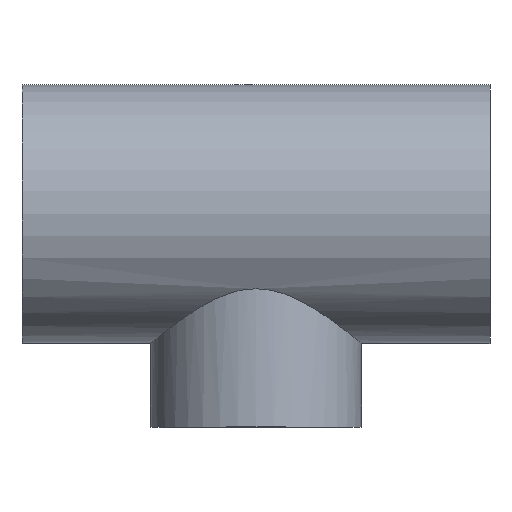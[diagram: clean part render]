
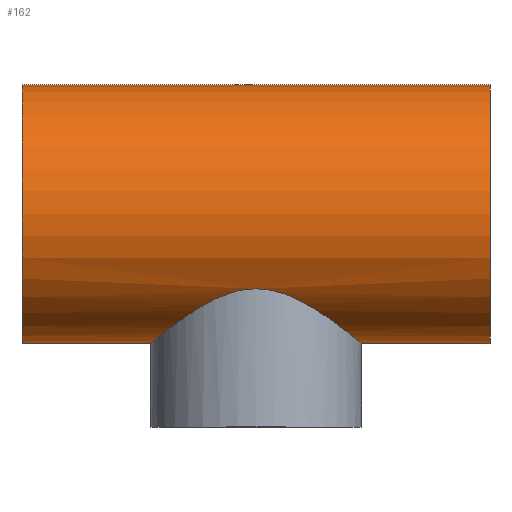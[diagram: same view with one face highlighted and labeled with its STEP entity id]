
A CAD part, top view. The second image highlights one B-rep face of the part: STEP entity #162.
In plain terms, the highlighted cylindrical face has radius 65 mm (diameter 130 mm), a full revolution.
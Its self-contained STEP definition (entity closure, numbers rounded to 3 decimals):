
#16=B_SPLINE_CURVE_WITH_KNOTS('',3,(#344,#345,#346,#347,#348,#349,#350,
#351,#352,#353,#354,#355,#356,#357,#358,#359,#360,#361,#362,#363,#364,#365,
#366,#367,#368,#369,#370,#371,#372,#373,#374,#375,#376,#377,#378,#379,#380,
#381,#382,#383,#384,#385,#386,#387,#388,#389,#390,#391,#392,#393,#394,#395,
#396,#397,#398,#399,#400,#401,#402,#403,#404,#405,#406,#407,#408,#409),
 .UNSPECIFIED.,.T.,.F.,(4,2,2,2,2,2,2,2,2,2,2,2,2,2,2,2,2,2,2,2,2,2,2,2,
2,2,2,2,2,2,2,2,4),(0.,1.094,2.188,3.283,
4.377,5.432,6.488,7.544,8.599,
9.655,10.711,11.767,12.822,13.916,
15.011,16.105,17.199,18.293,19.387,
20.481,21.576,22.631,23.687,24.743,
25.798,26.854,27.91,28.966,30.021,
31.115,32.21,33.304,34.398),
 .UNSPECIFIED.);
#32=FACE_BOUND('',#69,.T.);
#33=FACE_BOUND('',#70,.T.);
#46=FACE_OUTER_BOUND('',#68,.T.);
#68=EDGE_LOOP('',(#136));
#69=EDGE_LOOP('',(#137));
#70=EDGE_LOOP('',(#138));
#88=CIRCLE('',#187,65.);
#89=CIRCLE('',#188,65.);
#101=VERTEX_POINT('',#341);
#102=VERTEX_POINT('',#343);
#103=VERTEX_POINT('',#410);
#115=EDGE_CURVE('',#101,#101,#88,.T.);
#116=EDGE_CURVE('',#102,#102,#16,.T.);
#117=EDGE_CURVE('',#103,#103,#89,.T.);
#136=ORIENTED_EDGE('',*,*,#115,.F.);
#137=ORIENTED_EDGE('',*,*,#116,.T.);
#138=ORIENTED_EDGE('',*,*,#117,.F.);
#152=CYLINDRICAL_SURFACE('',#186,65.);
#162=ADVANCED_FACE('',(#46,#32,#33),#152,.T.);
#186=AXIS2_PLACEMENT_3D('',#340,#230,#231);
#187=AXIS2_PLACEMENT_3D('',#342,#232,#233);
#188=AXIS2_PLACEMENT_3D('',#411,#234,#235);
#230=DIRECTION('center_axis',(1.,0.,0.));
#231=DIRECTION('ref_axis',(0.,-1.,0.));
#232=DIRECTION('center_axis',(-1.,0.,0.));
#233=DIRECTION('ref_axis',(0.,-1.,0.));
#234=DIRECTION('center_axis',(1.,0.,0.));
#235=DIRECTION('ref_axis',(0.,-1.,0.));
#340=CARTESIAN_POINT('Origin',(0.,0.,0.));
#341=CARTESIAN_POINT('',(-117.5,65.,0.));
#342=CARTESIAN_POINT('Origin',(-117.5,0.,0.));
#343=CARTESIAN_POINT('',(0.,-37.63,53.));
#344=CARTESIAN_POINT('Ctrl Pts',(0.,-37.63,
53.));
#345=CARTESIAN_POINT('Ctrl Pts',(3.647,-37.63,53.));
#346=CARTESIAN_POINT('Ctrl Pts',(7.246,-38.175,52.622));
#347=CARTESIAN_POINT('Ctrl Pts',(14.202,-40.081,51.185));
#348=CARTESIAN_POINT('Ctrl Pts',(17.562,-41.432,50.126));
#349=CARTESIAN_POINT('Ctrl Pts',(23.945,-44.515,47.409));
#350=CARTESIAN_POINT('Ctrl Pts',(26.972,-46.245,45.75));
#351=CARTESIAN_POINT('Ctrl Pts',(32.584,-49.728,41.938));
#352=CARTESIAN_POINT('Ctrl Pts',(35.169,-51.48,39.784));
#353=CARTESIAN_POINT('Ctrl Pts',(39.703,-54.68,35.25));
#354=CARTESIAN_POINT('Ctrl Pts',(41.836,-56.256,32.715));
#355=CARTESIAN_POINT('Ctrl Pts',(45.664,-59.158,27.116));
#356=CARTESIAN_POINT('Ctrl Pts',(47.36,-60.484,24.052));
#357=CARTESIAN_POINT('Ctrl Pts',(50.131,-62.677,17.559));
#358=CARTESIAN_POINT('Ctrl Pts',(51.209,-63.547,14.123));
#359=CARTESIAN_POINT('Ctrl Pts',(52.644,-64.709,7.103));
#360=CARTESIAN_POINT('Ctrl Pts',(53.,-65.,3.519));
#361=CARTESIAN_POINT('Ctrl Pts',(53.,-65.,-3.519));
#362=CARTESIAN_POINT('Ctrl Pts',(52.644,-64.709,-7.103));
#363=CARTESIAN_POINT('Ctrl Pts',(51.209,-63.547,-14.123));
#364=CARTESIAN_POINT('Ctrl Pts',(50.131,-62.677,-17.559));
#365=CARTESIAN_POINT('Ctrl Pts',(47.36,-60.484,-24.052));
#366=CARTESIAN_POINT('Ctrl Pts',(45.664,-59.158,-27.116));
#367=CARTESIAN_POINT('Ctrl Pts',(41.836,-56.256,-32.715));
#368=CARTESIAN_POINT('Ctrl Pts',(39.703,-54.68,-35.25));
#369=CARTESIAN_POINT('Ctrl Pts',(35.169,-51.48,-39.784));
#370=CARTESIAN_POINT('Ctrl Pts',(32.584,-49.728,-41.938));
#371=CARTESIAN_POINT('Ctrl Pts',(26.972,-46.245,-45.75));
#372=CARTESIAN_POINT('Ctrl Pts',(23.945,-44.515,-47.409));
#373=CARTESIAN_POINT('Ctrl Pts',(17.562,-41.432,-50.126));
#374=CARTESIAN_POINT('Ctrl Pts',(14.202,-40.081,-51.185));
#375=CARTESIAN_POINT('Ctrl Pts',(7.246,-38.175,-52.622));
#376=CARTESIAN_POINT('Ctrl Pts',(3.647,-37.63,-53.));
#377=CARTESIAN_POINT('Ctrl Pts',(-3.647,-37.63,-53.));
#378=CARTESIAN_POINT('Ctrl Pts',(-7.246,-38.175,-52.622));
#379=CARTESIAN_POINT('Ctrl Pts',(-14.202,-40.081,-51.185));
#380=CARTESIAN_POINT('Ctrl Pts',(-17.562,-41.432,-50.126));
#381=CARTESIAN_POINT('Ctrl Pts',(-23.945,-44.515,-47.409));
#382=CARTESIAN_POINT('Ctrl Pts',(-26.972,-46.245,-45.75));
#383=CARTESIAN_POINT('Ctrl Pts',(-32.584,-49.728,-41.938));
#384=CARTESIAN_POINT('Ctrl Pts',(-35.169,-51.48,-39.784));
#385=CARTESIAN_POINT('Ctrl Pts',(-39.703,-54.68,-35.25));
#386=CARTESIAN_POINT('Ctrl Pts',(-41.836,-56.256,-32.715));
#387=CARTESIAN_POINT('Ctrl Pts',(-45.664,-59.158,-27.116));
#388=CARTESIAN_POINT('Ctrl Pts',(-47.36,-60.484,-24.052));
#389=CARTESIAN_POINT('Ctrl Pts',(-50.131,-62.677,-17.559));
#390=CARTESIAN_POINT('Ctrl Pts',(-51.209,-63.547,-14.123));
#391=CARTESIAN_POINT('Ctrl Pts',(-52.644,-64.709,-7.103));
#392=CARTESIAN_POINT('Ctrl Pts',(-53.,-65.,-3.519));
#393=CARTESIAN_POINT('Ctrl Pts',(-53.,-65.,3.519));
#394=CARTESIAN_POINT('Ctrl Pts',(-52.644,-64.709,7.103));
#395=CARTESIAN_POINT('Ctrl Pts',(-51.209,-63.547,14.123));
#396=CARTESIAN_POINT('Ctrl Pts',(-50.131,-62.677,17.559));
#397=CARTESIAN_POINT('Ctrl Pts',(-47.36,-60.484,24.052));
#398=CARTESIAN_POINT('Ctrl Pts',(-45.664,-59.158,27.116));
#399=CARTESIAN_POINT('Ctrl Pts',(-41.836,-56.256,32.715));
#400=CARTESIAN_POINT('Ctrl Pts',(-39.703,-54.68,35.25));
#401=CARTESIAN_POINT('Ctrl Pts',(-35.169,-51.48,39.784));
#402=CARTESIAN_POINT('Ctrl Pts',(-32.584,-49.728,41.938));
#403=CARTESIAN_POINT('Ctrl Pts',(-26.972,-46.245,45.75));
#404=CARTESIAN_POINT('Ctrl Pts',(-23.945,-44.515,47.409));
#405=CARTESIAN_POINT('Ctrl Pts',(-17.562,-41.432,50.126));
#406=CARTESIAN_POINT('Ctrl Pts',(-14.202,-40.081,51.185));
#407=CARTESIAN_POINT('Ctrl Pts',(-7.246,-38.175,52.622));
#408=CARTESIAN_POINT('Ctrl Pts',(-3.647,-37.63,53.));
#409=CARTESIAN_POINT('Ctrl Pts',(0.,-37.63,
53.));
#410=CARTESIAN_POINT('',(117.5,65.,0.));
#411=CARTESIAN_POINT('Origin',(117.5,0.,0.));
